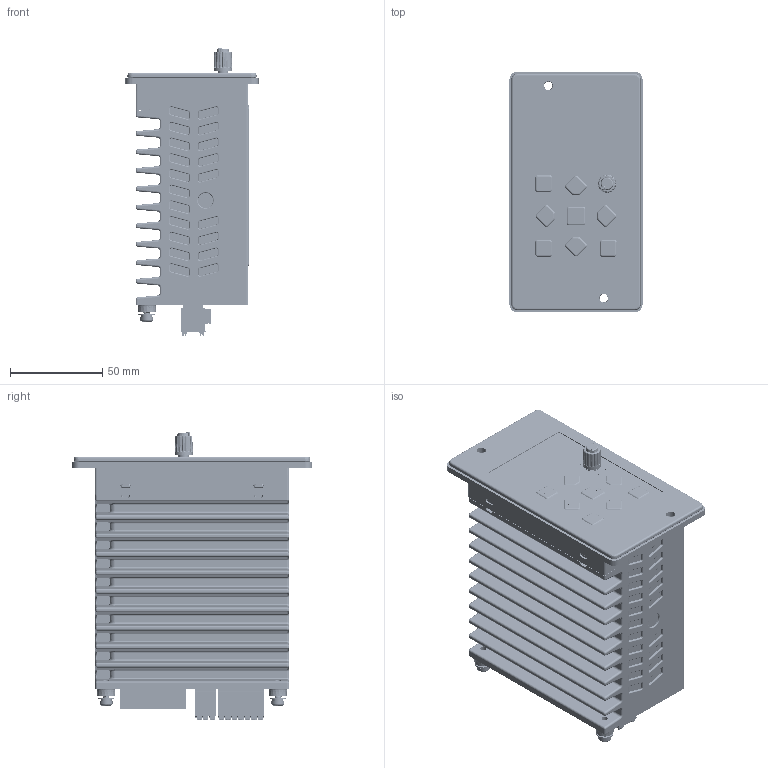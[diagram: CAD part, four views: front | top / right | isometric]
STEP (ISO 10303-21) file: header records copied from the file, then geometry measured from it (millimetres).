
FILE_DESCRIPTION (( 'STEP AP203' ), '1' );
FILE_NAME ('ZDRV.C20-400L-DR.STEP', '2023-04-19T02:42:53', ( '' ), ( '' ), 'SwSTEP 2.0', 'SolidWorks 2019', '' );
FILE_SCHEMA (( 'CONFIG_CONTROL_DESIGN' ));
Products named in the file (1): ZDRV.C20-400L-DR
Bounding box: 72 x 130 x 155.7 mm (x, y, z)
Volume: 714033.9 mm3; surface area: 124290 mm2
Topology: 1 solids, 59 shells, 10623 faces, 28681 edges, 18714 vertices
Faces by surface type: plane 6639, cylinder 1943, bspline 1343, cone 332, torus 259, sphere 107
Entity records: 392539 total; most frequent: CARTESIAN_POINT 133535, ORIENTED_EDGE 57238, DIRECTION 48556, EDGE_CURVE 28619, VECTOR 20618, LINE 20618, VERTEX_POINT 18714, AXIS2_PLACEMENT_3D 13969
